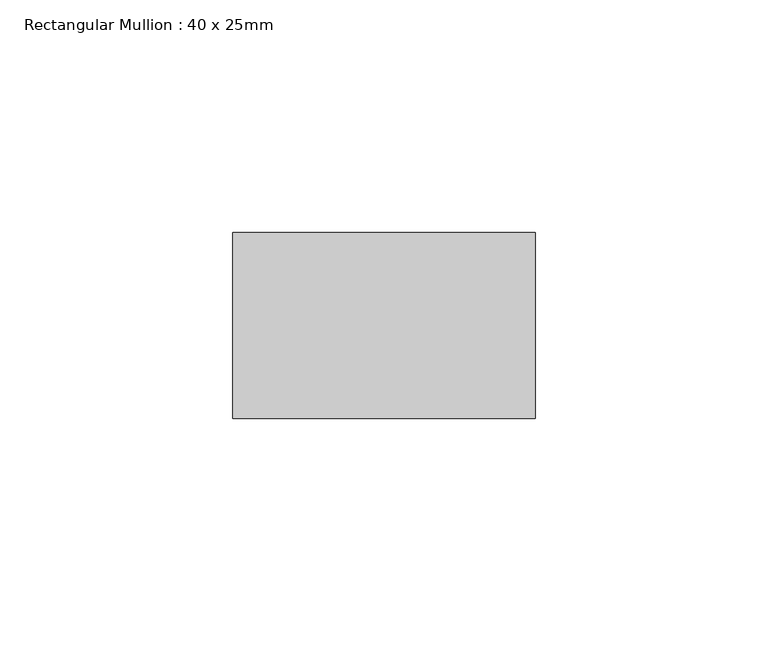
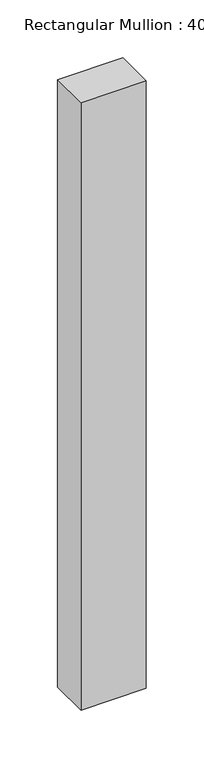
"""IFC4 building model written with IfcOpenShell, lengths in millimetres: member geometry, Rectangular Mullion : 40 x 25mm."""

from ifc_helpers import new_model, si_unit, frame, origin, place, context, project, spatial, polyline, outline, extrude, source, transform, mapped, element, save


def rectangular_mullion_40_x_25mm_7734175d(model_context):
    return source(origin(), model_context, "Body", "SweptSolid", [
        extrude(outline(polyline([(0.0, -20.0), (0.0, -60.0), (-65.0, -60.0), (-65.0, -20.0), (0.0, -20.0)])), frame((0.0, 0.0, -640.0), z_axis=(0.0, 0.0, 1.0), x_axis=(1.0, 0.0, 0.0)), (0.0, 0.0, 1.0), 640.0),
    ])


if __name__ == "__main__":
    model = new_model("IFC4")
    model_context = context("Model", 3, world=origin())
    ifc_project = project(units=[si_unit("LENGTHUNIT", "METRE", prefix="MILLI")], contexts=[model_context])
    site = spatial("IfcSite", under=ifc_project)
    building = spatial("IfcBuilding", under=site)
    placement = place(None, origin())
    rectangular_mullion_40_x_25mm_shape = rectangular_mullion_40_x_25mm_7734175d(model_context)
    element("IfcMember", 1, ObjectType="Rectangular Mullion : 40 x 25mm", at=placement, inside=building, context=model_context, shape_type="MappedRepresentation", body=[
        mapped(rectangular_mullion_40_x_25mm_shape, transform((0.0, 0.0, 0.0), x_axis=(1.0, 0.0, 0.0), y_axis=(0.0, 1.0, 0.0), z_axis=(0.0, 0.0, 1.0))),
    ])
    save(model, "model.ifc")
